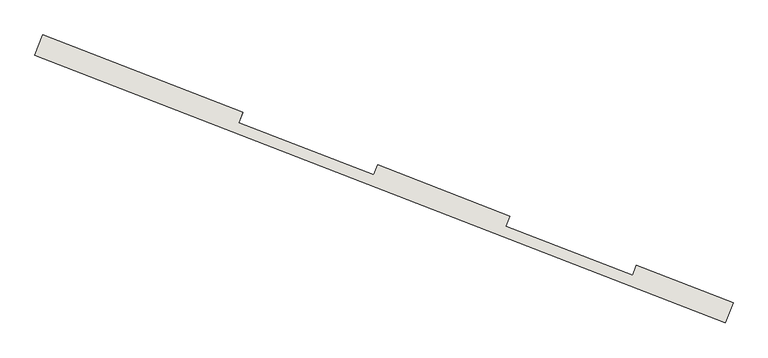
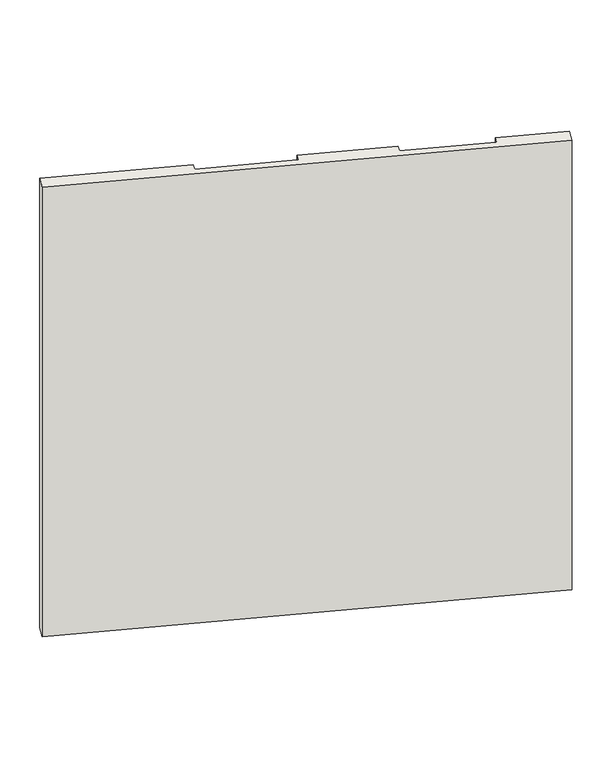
"""IFC4 building model written with IfcOpenShell, lengths in millimetres: wall geometry, kamposite3 : kamposite2."""

from ifc_helpers import new_model, si_unit, origin, place, context, project, spatial, faceted_brep, source, transform, mapped, element, save


def wall_d5b73eeb(model_context):
    return source(origin(), model_context, "Body", "Brep", [
        faceted_brep([(-250.3748169, 15163.2898207, 13000.0), (-250.3748169, 15163.2898207, 9500.0), (2938.093022, 13926.3286894, 9500.0), (2938.093022, 13926.3286894, 13000.0), (-214.2063627, 15256.5198745, 9500.0), (-214.2063627, 15256.5198745, 13000.0), (709.2620227, 14898.2617529, 13000.0), (709.2620227, 14898.2617529, 12220.5733633), (-211.8999426, 15255.6251024, 12220.5733633), (-211.8999426, 15255.6251024, 12170.5733633), (709.2620227, 14898.2617529, 12170.5733633), (709.2620227, 14898.2617529, 10461.5733633), (-211.8999426, 15255.6251024, 10461.5733633), (-211.8999426, 15255.6251024, 10411.5733633), (709.2620227, 14898.2617529, 10411.5733633), (709.2620227, 14898.2617529, 9500.0), (2974.2614761, 14019.5587432, 13000.0), (2974.2614761, 14019.5587432, 12220.5733633), (2528.06193, 14192.661162, 12220.5733633), (2528.06193, 14192.661162, 13000.0), (2974.2614761, 14019.5587432, 10411.5733633), (2974.2614761, 14019.5587432, 9500.0), (2528.06193, 14192.661162, 9500.0), (2528.06193, 14192.661162, 10411.5733633), (2974.2614761, 14019.5587432, 12170.5733633), (2974.2614761, 14019.5587432, 10461.5733633), (2528.06193, 14192.661162, 10461.5733633), (2528.06193, 14192.661162, 12170.5733633), (1333.1327149, 14656.2320897, 13000.0), (1942.8904543, 14419.6775245, 13000.0), (1942.8904543, 14419.6775245, 12220.5733633), (1333.1327149, 14656.2320897, 12220.5733633), (1333.1327149, 14656.2320897, 12170.5733633), (1942.8904543, 14419.6775245, 12170.5733633), (1942.8904543, 14419.6775245, 10461.5733633), (1333.1327149, 14656.2320897, 10461.5733633), (1333.1327149, 14656.2320897, 10411.5733633), (1942.8904543, 14419.6775245, 10411.5733633), (1942.8904543, 14419.6775245, 9500.0), (1333.1327149, 14656.2320897, 9500.0), (691.1777956, 14851.646726, 9500.0), (1315.0484878, 14609.6170628, 9500.0), (1924.8062272, 14373.0624976, 9500.0), (2509.977703, 14146.0461351, 9500.0), (2956.1772491, 13972.9437163, 10411.5733633), (2956.1772491, 13972.9437163, 10461.5733633), (2956.1772491, 13972.9437163, 12170.5733633), (2956.1772491, 13972.9437163, 12220.5733633), (2509.977703, 14146.0461351, 13000.0), (1924.8062272, 14373.0624976, 13000.0), (1315.0484878, 14609.6170628, 13000.0), (691.1777956, 14851.646726, 13000.0), (-229.9841696, 15209.0100755, 12170.5733633), (-229.9841696, 15209.0100755, 12220.5733633), (691.1777956, 14851.646726, 12220.5733633), (1315.0484878, 14609.6170628, 12220.5733633), (1924.8062272, 14373.0624976, 12220.5733633), (2509.977703, 14146.0461351, 12220.5733633), (2509.977703, 14146.0461351, 12170.5733633), (2509.977703, 14146.0461351, 10461.5733633), (2509.977703, 14146.0461351, 10411.5733633), (1924.8062272, 14373.0624976, 10411.5733633), (1315.0484878, 14609.6170628, 10411.5733633), (691.1777956, 14851.646726, 10411.5733633), (-229.9841696, 15209.0100755, 10411.5733633), (-229.9841696, 15209.0100755, 10461.5733633), (691.1777956, 14851.646726, 10461.5733633), (691.1777956, 14851.646726, 12170.5733633), (1924.8062272, 14373.0624976, 12170.5733633), (1315.0484878, 14609.6170628, 12170.5733633), (1315.0484878, 14609.6170628, 10461.5733633), (1924.8062272, 14373.0624976, 10461.5733633)], [[[0, 1, 2, 3]], [[4, 5, 6, 7, 8, 9, 10, 11, 12, 13, 14, 15]], [[16, 17, 18, 19]], [[20, 21, 22, 23]], [[24, 25, 26, 27]], [[28, 29, 30, 31]], [[32, 33, 34, 35]], [[36, 37, 38, 39]], [[1, 0, 5, 4]], [[2, 1, 4, 15, 40, 41, 39, 38, 42, 43, 22, 21]], [[3, 2, 21, 20, 44, 45, 25, 24, 46, 47, 17, 16]], [[0, 3, 16, 19, 48, 49, 29, 28, 50, 51, 6, 5]], [[52, 53, 54, 51, 50, 55, 56, 49, 48, 57, 47, 46, 58, 59, 45, 44, 60, 43, 42, 61, 62, 41, 40, 63, 64, 65, 66, 67], [68, 69, 70, 71]], [[53, 52, 9, 8]], [[33, 32, 69, 68]], [[46, 24, 27, 58]], [[9, 52, 67, 10]], [[31, 30, 56, 55]], [[17, 47, 57, 18]], [[53, 8, 7, 54]], [[65, 64, 13, 12]], [[37, 36, 62, 61]], [[44, 20, 23, 60]], [[13, 64, 63, 14]], [[35, 34, 71, 70]], [[25, 45, 59, 26]], [[65, 12, 11, 66]], [[49, 56, 30, 29]], [[61, 42, 38, 37]], [[68, 71, 34, 33]], [[57, 48, 19, 18]], [[59, 58, 27, 26]], [[43, 60, 23, 22]], [[51, 54, 7, 6]], [[63, 40, 15, 14]], [[67, 66, 11, 10]], [[55, 50, 28, 31]], [[41, 62, 36, 39]], [[70, 69, 32, 35]]]),
    ])


if __name__ == "__main__":
    model = new_model("IFC4")
    model_context = context("Model", 3, world=origin())
    ifc_project = project(units=[si_unit("LENGTHUNIT", "METRE", prefix="MILLI")], contexts=[model_context])
    site = spatial("IfcSite", under=ifc_project)
    building = spatial("IfcBuilding", under=site)
    placement = place(None, origin())
    wall_shape = wall_d5b73eeb(model_context)
    element("IfcWall", 1, ObjectType="kamposite3 : kamposite2", at=placement, inside=building, context=model_context, shape_type="MappedRepresentation", body=[
        mapped(wall_shape, transform((0.0, 0.0, 0.0), x_axis=(1.0, 0.0, 0.0), y_axis=(0.0, 1.0, 0.0), z_axis=(0.0, 0.0, 1.0))),
    ])
    save(model, "model.ifc")
